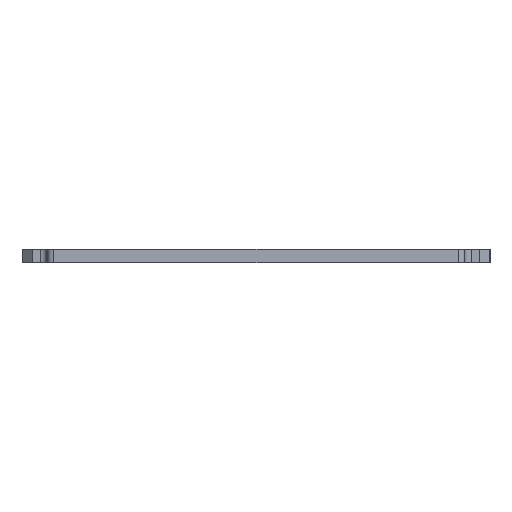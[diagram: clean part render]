
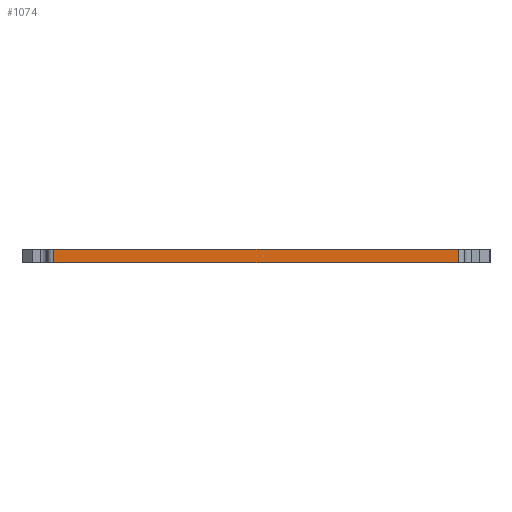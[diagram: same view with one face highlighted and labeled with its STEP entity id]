
A CAD part, left-side view. The second image highlights one B-rep face of the part: STEP entity #1074.
In plain terms, the highlighted planar face has unit normal (-1, 0, 0).
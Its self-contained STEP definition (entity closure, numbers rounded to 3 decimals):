
#1047 = VERTEX_POINT('',#1048);
#1048 = CARTESIAN_POINT('',(0.,6.05,0.414));
#1055 = EDGE_CURVE('',#1056,#1047,#1058,.T.);
#1056 = VERTEX_POINT('',#1057);
#1057 = CARTESIAN_POINT('',(0.,6.05,0.));
#1058 = LINE('',#1059,#1060);
#1059 = CARTESIAN_POINT('',(0.,6.05,0.));
#1060 = VECTOR('',#1061,1.);
#1061 = DIRECTION('',(0.,0.,1.));
#1074 = ADVANCED_FACE('',(#1075),#1100,.F.);
#1075 = FACE_BOUND('',#1076,.F.);
#1076 = EDGE_LOOP('',(#1077,#1078,#1086,#1094));
#1077 = ORIENTED_EDGE('',*,*,#1055,.T.);
#1078 = ORIENTED_EDGE('',*,*,#1079,.T.);
#1079 = EDGE_CURVE('',#1047,#1080,#1082,.T.);
#1080 = VERTEX_POINT('',#1081);
#1081 = CARTESIAN_POINT('',(0.,-6.05,
    0.414));
#1082 = LINE('',#1083,#1084);
#1083 = CARTESIAN_POINT('',(0.,6.05,0.414));
#1084 = VECTOR('',#1085,1.);
#1085 = DIRECTION('',(0.,-1.,0.));
#1086 = ORIENTED_EDGE('',*,*,#1087,.F.);
#1087 = EDGE_CURVE('',#1088,#1080,#1090,.T.);
#1088 = VERTEX_POINT('',#1089);
#1089 = CARTESIAN_POINT('',(0.,-6.05,0.
    ));
#1090 = LINE('',#1091,#1092);
#1091 = CARTESIAN_POINT('',(0.,-6.05,0.
    ));
#1092 = VECTOR('',#1093,1.);
#1093 = DIRECTION('',(0.,0.,1.));
#1094 = ORIENTED_EDGE('',*,*,#1095,.F.);
#1095 = EDGE_CURVE('',#1056,#1088,#1096,.T.);
#1096 = LINE('',#1097,#1098);
#1097 = CARTESIAN_POINT('',(0.,6.05,0.));
#1098 = VECTOR('',#1099,1.);
#1099 = DIRECTION('',(0.,-1.,0.));
#1100 = PLANE('',#1101);
#1101 = AXIS2_PLACEMENT_3D('',#1102,#1103,#1104);
#1102 = CARTESIAN_POINT('',(0.,6.05,0.));
#1103 = DIRECTION('',(1.,0.,0.));
#1104 = DIRECTION('',(0.,-1.,0.));
